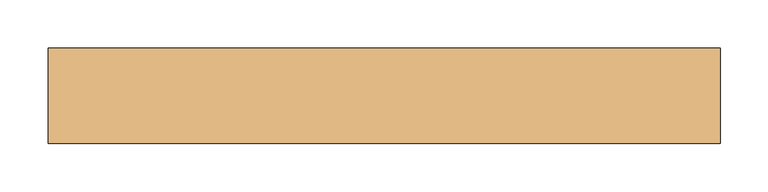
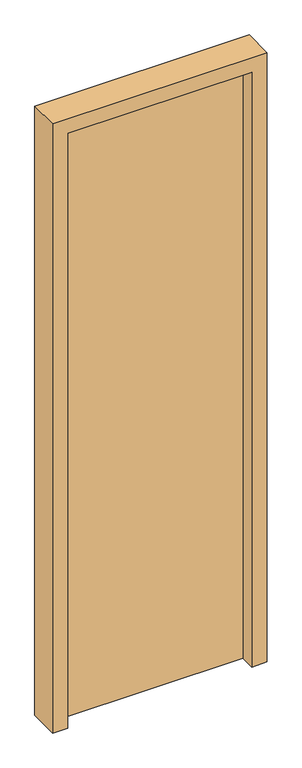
"""IFC4 building model written with IfcOpenShell, lengths in millimetres: door geometry, (Dr)_ДУ(распашная)_1Ст_Прямоугольная : (Вн)_ДГ(0.7х2.1(h))."""

import ifcopenshell
import ifcopenshell.guid

model = None  # the IFC model being written
_history = None  # IfcOwnerHistory: only IFC2X3 demands one
_inside = {}  # id of a spatial element -> (the spatial element, [elements in it])
_under = {}  # id of a project, library or spatial element -> (it, [spatial elements below it])
_declared = {}  # id of a project -> (the project, [libraries it declares])
_typed = {}  # id of a type object -> (the type object, [elements of that type])
_made_of = {}  # id of a material, layer set ... -> (it, [elements and type objects made of it])


def new_model(schema):
    """Start an empty IFC model of exactly this schema.

    Asked for "IFC4X3", IfcOpenShell would pick the latest addendum, in which some entities
    have other attributes; the version numbers below select the first issue.
    IFC2X3 requires an IfcOwnerHistory on every rooted entity: one is made here for all.
    """
    global model, _history
    if schema == "IFC4X3":
        model = ifcopenshell.file(schema_version=(4, 3, 0, 0))
    else:
        model = ifcopenshell.file(schema=schema)
    _inside.clear()
    _under.clear()
    _declared.clear()
    _typed.clear()
    _made_of.clear()
    _history = None
    if model.schema == "IFC2X3":
        org = make("IfcOrganization", Name="unknown")
        user = make(
            "IfcPersonAndOrganization",
            ThePerson=make("IfcPerson", FamilyName="unknown"),
            TheOrganization=org,
        )
        app = make(
            "IfcApplication",
            ApplicationDeveloper=org,
            Version="unknown",
            ApplicationFullName="unknown",
            ApplicationIdentifier="unknown",
        )
        _history = make(
            "IfcOwnerHistory",
            OwningUser=user,
            OwningApplication=app,
            ChangeAction="ADDED",
            CreationDate=0,
        )
    return model


def make(cls, **values):
    """One entity of the class cls with the attributes given. An attribute that is None is left unset."""
    return model.create_entity(
        cls, **{name: value for name, value in values.items() if value is not None}
    )


def rooted(cls, **values):
    """An entity with a GlobalId (a new one), such as an element, a storey or a relation."""
    return make(cls, GlobalId=ifcopenshell.guid.new(), OwnerHistory=_history, **values)


def si_unit(unit_type, name, prefix=None):
    """IfcSIUnit, for example si_unit("LENGTHUNIT", "METRE", prefix="MILLI")."""
    return make("IfcSIUnit", UnitType=unit_type, Prefix=prefix, Name=name)


def assignment(units):
    """IfcUnitAssignment: the units of a project."""
    return None if units is None else make("IfcUnitAssignment", Units=units)


def point(xyz):
    """IfcCartesianPoint."""
    return None if xyz is None else make("IfcCartesianPoint", Coordinates=xyz)


def direction(xyz):
    """IfcDirection."""
    return None if xyz is None else make("IfcDirection", DirectionRatios=xyz)


def frame(location, z_axis=None, x_axis=None):
    """IfcAxis2Placement3D, a coordinate frame: its origin and axes. An axis left out is left unset."""
    return make(
        "IfcAxis2Placement3D",
        Location=point(location),
        Axis=direction(z_axis),
        RefDirection=direction(x_axis),
    )


def origin():
    """The frame at (0, 0, 0) with its axes left unset."""
    return frame((0.0, 0.0, 0.0))


def origin_with_axes():
    """The frame at (0, 0, 0) with the z axis (0, 0, 1) and the x axis (1, 0, 0) written out."""
    return frame((0.0, 0.0, 0.0), z_axis=(0.0, 0.0, 1.0), x_axis=(1.0, 0.0, 0.0))


def place(relative_to, where):
    """IfcLocalPlacement: puts the frame where relative to a parent placement (None: the world)."""
    return make(
        "IfcLocalPlacement", PlacementRelTo=relative_to, RelativePlacement=where
    )


def context(
    kind, dimensions, precision=None, world=None, true_north=None, identifier=None
):
    """IfcGeometricRepresentationContext, for example the 3D "Model" context."""
    return make(
        "IfcGeometricRepresentationContext",
        ContextIdentifier=identifier,
        ContextType=kind,
        CoordinateSpaceDimension=dimensions,
        Precision=precision,
        WorldCoordinateSystem=world,
        TrueNorth=true_north,
    )


def project(units=None, contexts=None):
    """IfcProject with its units and contexts."""
    return rooted(
        "IfcProject",
        Name="project",
        RepresentationContexts=contexts,
        UnitsInContext=assignment(units),
    )


def spatial(cls, under=None, at=None, **own):
    """A site, building, storey or space (cls), placed at a placement, below another one or the project."""
    s = rooted(cls, ObjectPlacement=at, **own)
    if under is not None:
        _under.setdefault(under.id(), (under, []))[1].append(s)
    return s


def polyline(points):
    """IfcPolyline through the points."""
    return make("IfcPolyline", Points=[point(p) for p in points])


def outline(outer, holes=None, kind="AREA"):
    """IfcArbitraryClosedProfileDef: a profile drawn as a closed curve; with holes, ...WithVoids."""
    if holes is None:
        return make("IfcArbitraryClosedProfileDef", ProfileType=kind, OuterCurve=outer)
    return make(
        "IfcArbitraryProfileDefWithVoids",
        ProfileType=kind,
        OuterCurve=outer,
        InnerCurves=holes,
    )


def extrude(swept, where, along, depth):
    """IfcExtrudedAreaSolid: the profile swept, set in the frame where, extruded along a direction by depth."""
    return make(
        "IfcExtrudedAreaSolid",
        SweptArea=swept,
        Position=where,
        ExtrudedDirection=direction(along),
        Depth=depth,
    )


def shape(context_of_items, identifier, shape_type, items):
    """IfcShapeRepresentation: the items that make up one representation, for example the "Body"."""
    return make(
        "IfcShapeRepresentation",
        ContextOfItems=context_of_items,
        RepresentationIdentifier=identifier,
        RepresentationType=shape_type,
        Items=items,
    )


def source(mapping_origin, context_of_items, identifier, shape_type, items):
    """IfcRepresentationMap: a shape defined once, which mapped items show again and again."""
    return make(
        "IfcRepresentationMap",
        MappingOrigin=mapping_origin,
        MappedRepresentation=shape(context_of_items, identifier, shape_type, items),
    )


def transform(
    local_origin,
    x_axis=None,
    y_axis=None,
    z_axis=None,
    scale=None,
    scale2=None,
    scale3=None,
    uniform=True,
):
    """IfcCartesianTransformationOperator3D, or its non-uniform kind. x_axis, y_axis, z_axis: its Axis1, 2, 3."""
    if uniform:
        return make(
            "IfcCartesianTransformationOperator3D",
            Axis1=direction(x_axis),
            Axis2=direction(y_axis),
            LocalOrigin=point(local_origin),
            Scale=scale,
            Axis3=direction(z_axis),
        )
    return make(
        "IfcCartesianTransformationOperator3DnonUniform",
        Axis1=direction(x_axis),
        Axis2=direction(y_axis),
        LocalOrigin=point(local_origin),
        Scale=scale,
        Axis3=direction(z_axis),
        Scale2=scale2,
        Scale3=scale3,
    )


def mapped(mapping_source, mapping_target):
    """IfcMappedItem: shows the shape of a source again, moved by a transform."""
    return make(
        "IfcMappedItem", MappingSource=mapping_source, MappingTarget=mapping_target
    )


def made_of(thing, what):
    """Note that an element or type object is made of a material, layer set ...; save() writes the relation."""
    if what is not None:
        _made_of.setdefault(what.id(), (what, []))[1].append(thing)
    return thing


def element(
    cls,
    number,
    at=None,
    inside=None,
    cuts=None,
    type_object=None,
    material=None,
    context=None,
    identifier="Body",
    shape_type=None,
    held_by="IfcProductDefinitionShape",
    body=None,
    shapes=None,
    **own,
):
    """One element of the class cls, such as IfcWall. Its Tag is "e" and its number.

    at: its placement. inside: the storey or other place that contains it. cuts: it is an
    opening in that element (IfcRelVoidsElement). A single representation is given by context,
    identifier, shape_type and body (its items); several are given by shapes. held_by: the class
    of the entity that holds the representations. save() writes the other relations.
    """
    e = rooted(cls, Tag="e%d" % number, ObjectPlacement=at, **own)
    if body is not None:
        shapes = [shape(context, identifier, shape_type, body)]
    if shapes is not None:
        e.Representation = make(held_by, Representations=shapes)
    if inside is not None:
        _inside.setdefault(inside.id(), (inside, []))[1].append(e)
    if cuts is not None:
        rooted(
            "IfcRelVoidsElement", RelatingBuildingElement=cuts, RelatedOpeningElement=e
        )
    if type_object is not None:
        _typed.setdefault(type_object.id(), (type_object, []))[1].append(e)
    return made_of(e, material)


def aggregate(whole, parts):
    """IfcRelAggregates: a whole, such as a stair, and the parts it consists of."""
    return rooted("IfcRelAggregates", RelatingObject=whole, RelatedObjects=parts)


def save(model, path):
    """Write the relations noted so far, then the file.

    IfcRelAggregates (storeys below a building ...), IfcRelContainedInSpatialStructure (elements
    in a storey), IfcRelDefinesByType, IfcRelAssociatesMaterial and IfcRelDeclares: one each for
    every whole, place, type object, material and project.
    """
    for whole, parts in _under.values():
        aggregate(whole, parts)
    for where, things in _inside.values():
        rooted(
            "IfcRelContainedInSpatialStructure",
            RelatedElements=things,
            RelatingStructure=where,
        )
    for kind, things in _typed.values():
        rooted("IfcRelDefinesByType", RelatedObjects=things, RelatingType=kind)
    for what, things in _made_of.values():
        rooted("IfcRelAssociatesMaterial", RelatedObjects=things, RelatingMaterial=what)
    for by, libraries in _declared.values():
        rooted("IfcRelDeclares", RelatingContext=by, RelatedDefinitions=libraries)
    model.write(path)


def door_4a9ce748(model_context):
    return source(origin(), model_context, "Body", "SweptSolid", [
        extrude(outline(polyline([(-300.0, 50.0), (300.0, 50.0), (300.0, 0.0), (-300.0, 0.0), (-300.0, 50.0)])), origin_with_axes(), (0.0, 0.0, 1.0), 2050.0),
        extrude(outline(polyline([(0.0, -350.0), (0.0, -300.0), (2050.0, -300.0), (2050.0, 300.0), (0.0, 300.0), (0.0, 350.0), (2100.0, 350.0), (2100.0, -350.0), (0.0, -350.0)])), frame((0.0, -50.0, 0.0), z_axis=(0.0, 1.0, 0.0), x_axis=(0.0, 0.0, 1.0)), (0.0, 0.0, 1.0), 100.0),
    ])


if __name__ == "__main__":
    model = new_model("IFC4")
    model_context = context("Model", 3, world=origin())
    ifc_project = project(units=[si_unit("LENGTHUNIT", "METRE", prefix="MILLI")], contexts=[model_context])
    site = spatial("IfcSite", under=ifc_project)
    building = spatial("IfcBuilding", under=site)
    placement = place(None, origin())
    door_shape = door_4a9ce748(model_context)
    element("IfcDoor", 1, ObjectType="(Dr)_ДУ(распашная)_1Ст_Прямоугольная : (Вн)_ДГ(0.7х2.1(h))", at=placement, inside=building, context=model_context, shape_type="MappedRepresentation", body=[
        mapped(door_shape, transform((0.0, 0.0, 0.0), x_axis=(1.0, 0.0, 0.0), y_axis=(0.0, 1.0, 0.0), z_axis=(0.0, 0.0, 1.0))),
    ])
    save(model, "model.ifc")
